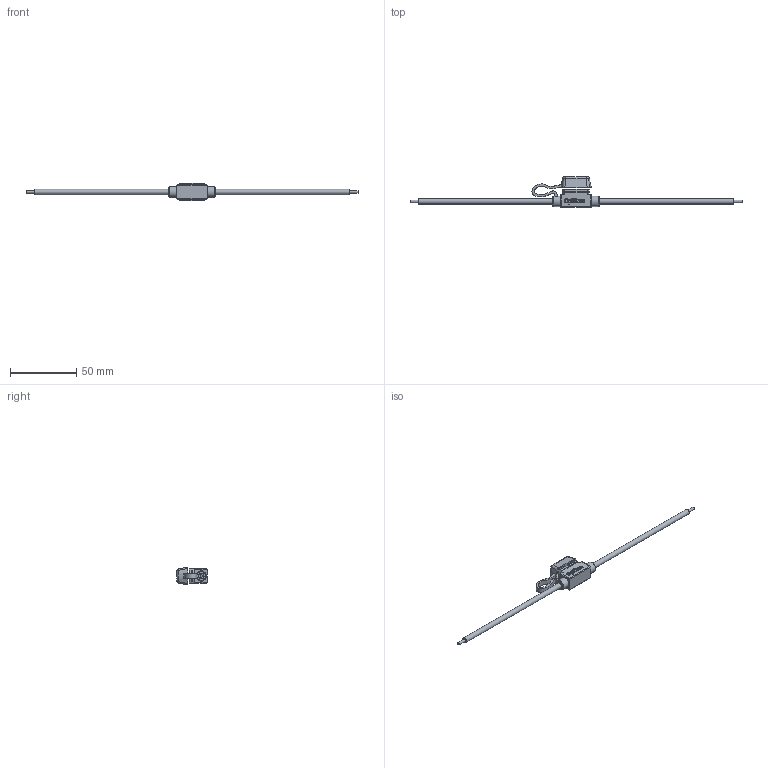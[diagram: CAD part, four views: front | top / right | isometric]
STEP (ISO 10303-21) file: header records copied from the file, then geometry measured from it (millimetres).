
FILE_DESCRIPTION(/* description */ (''),/* implementation_level */ '2;1');
FILE_NAME(/* name */ 'C:\Users\Hani\Desktop\work\LPS-02\LPS-02.stp',/* time_stamp */ '2021-07-18T13:07:47-07:00',/* author */ ('Hani'),/* organization */ (''),/* preprocessor_version */ 'ST-DEVELOPER v17',/* originating_system */ 'Autodesk Inventor 2019',/* authorisation */ '');
FILE_SCHEMA (('AUTOMOTIVE_DESIGN { 1 0 10303 214 3 1 1 }'));
Length unit declared in the file: inch
Products named in the file (2): LPT-04-I; holder_fuse-I
Assembly tree (1 placements, depth 2):
  LPT-04-I
    holder_fuse-I
Bounding box: 250.95 x 22.99 x 13.21 mm (x, y, z)
Volume: 4989.6 mm3; surface area: 8817.3 mm2
Topology: 1 solids, 2 shells, 248 faces, 606 edges, 390 vertices
Faces by surface type: plane 119, bspline 77, cylinder 32, torus 8, sphere 8, cone 4
Full cylindrical faces by diameter (mm): 1.778 x2, 1.905 x2, 4.064 x2, 5.588 x2, 7.874 x2
Entity records: 8459 total; most frequent: CARTESIAN_POINT 3017, ORIENTED_EDGE 1212, DIRECTION 880, EDGE_CURVE 606, VERTEX_POINT 390, LINE 344, VECTOR 344, EDGE_LOOP 276
